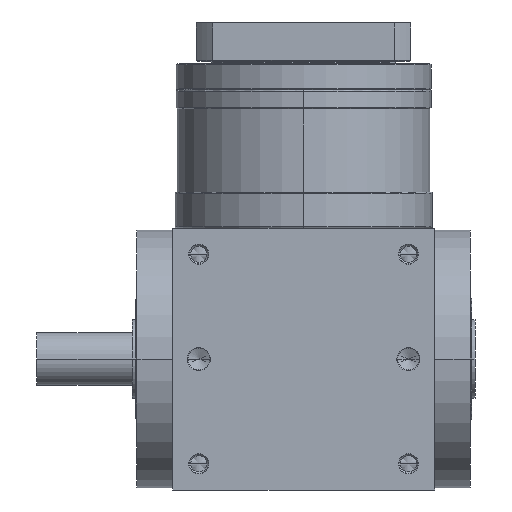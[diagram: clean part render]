
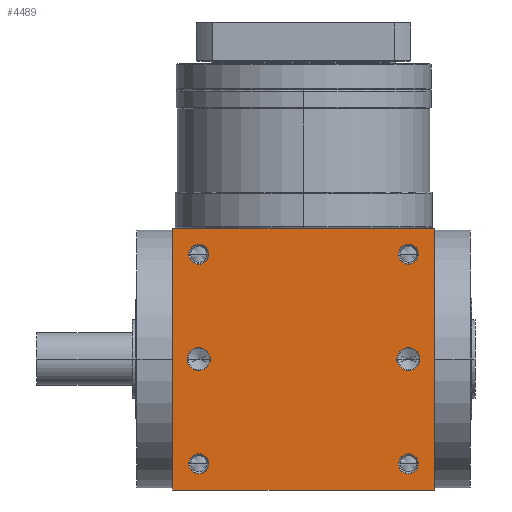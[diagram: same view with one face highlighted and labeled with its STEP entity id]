
A CAD part, front view. The second image highlights one B-rep face of the part: STEP entity #4489.
In plain terms, the highlighted planar face has unit normal (0, -1, 0).
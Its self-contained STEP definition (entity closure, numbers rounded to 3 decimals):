
#5=DIRECTION('',(1.,0.,0.));
#6=VECTOR('',#5,110.);
#7=CARTESIAN_POINT('',(-55.,-55.,-55.));
#8=LINE('',#7,#6);
#155=DIRECTION('',(0.,0.,1.));
#156=VECTOR('',#155,110.);
#157=CARTESIAN_POINT('',(55.,-55.,-55.));
#158=LINE('',#157,#156);
#209=DIRECTION('',(0.,0.,1.));
#210=VECTOR('',#209,110.);
#211=CARTESIAN_POINT('',(-55.,-55.,-55.));
#212=LINE('',#211,#210);
#213=CARTESIAN_POINT('',(44.,-55.,44.));
#214=DIRECTION('',(0.,1.,0.));
#215=DIRECTION('',(-1.,0.,0.));
#216=AXIS2_PLACEMENT_3D('',#213,#214,#215);
#218=CARTESIAN_POINT('',(44.,-55.,44.));
#219=DIRECTION('',(0.,1.,0.));
#220=DIRECTION('',(1.,0.,0.));
#221=AXIS2_PLACEMENT_3D('',#218,#219,#220);
#223=CARTESIAN_POINT('',(-44.,-55.,44.));
#224=DIRECTION('',(0.,1.,0.));
#225=DIRECTION('',(-1.,0.,0.));
#226=AXIS2_PLACEMENT_3D('',#223,#224,#225);
#228=CARTESIAN_POINT('',(-44.,-55.,44.));
#229=DIRECTION('',(0.,1.,0.));
#230=DIRECTION('',(1.,0.,0.));
#231=AXIS2_PLACEMENT_3D('',#228,#229,#230);
#233=CARTESIAN_POINT('',(44.,-55.,-44.));
#234=DIRECTION('',(0.,1.,0.));
#235=DIRECTION('',(-1.,0.,0.));
#236=AXIS2_PLACEMENT_3D('',#233,#234,#235);
#238=CARTESIAN_POINT('',(44.,-55.,-44.));
#239=DIRECTION('',(0.,1.,0.));
#240=DIRECTION('',(1.,0.,0.));
#241=AXIS2_PLACEMENT_3D('',#238,#239,#240);
#243=CARTESIAN_POINT('',(-44.,-55.,-44.));
#244=DIRECTION('',(0.,1.,0.));
#245=DIRECTION('',(-1.,0.,0.));
#246=AXIS2_PLACEMENT_3D('',#243,#244,#245);
#248=CARTESIAN_POINT('',(-44.,-55.,-44.));
#249=DIRECTION('',(0.,1.,0.));
#250=DIRECTION('',(1.,0.,0.));
#251=AXIS2_PLACEMENT_3D('',#248,#249,#250);
#253=CARTESIAN_POINT('',(-44.,-55.,0.));
#254=DIRECTION('',(0.,1.,0.));
#255=DIRECTION('',(1.,0.,0.));
#256=AXIS2_PLACEMENT_3D('',#253,#254,#255);
#258=CARTESIAN_POINT('',(-44.,-55.,0.));
#259=DIRECTION('',(0.,1.,0.));
#260=DIRECTION('',(-1.,0.,0.));
#261=AXIS2_PLACEMENT_3D('',#258,#259,#260);
#263=CARTESIAN_POINT('',(44.,-55.,0.));
#264=DIRECTION('',(0.,1.,0.));
#265=DIRECTION('',(1.,0.,0.));
#266=AXIS2_PLACEMENT_3D('',#263,#264,#265);
#268=CARTESIAN_POINT('',(44.,-55.,0.));
#269=DIRECTION('',(0.,1.,0.));
#270=DIRECTION('',(-1.,0.,0.));
#271=AXIS2_PLACEMENT_3D('',#268,#269,#270);
#285=DIRECTION('',(1.,0.,0.));
#286=VECTOR('',#285,110.);
#287=CARTESIAN_POINT('',(-55.,-55.,55.));
#288=LINE('',#287,#286);
#3610=CARTESIAN_POINT('',(-55.,-55.,-55.));
#3612=VERTEX_POINT('',#3610);
#3613=CARTESIAN_POINT('',(55.,-55.,-55.));
#3614=VERTEX_POINT('',#3613);
#3618=CARTESIAN_POINT('',(-55.,-55.,55.));
#3620=VERTEX_POINT('',#3618);
#3621=CARTESIAN_POINT('',(55.,-55.,55.));
#3622=VERTEX_POINT('',#3621);
#3793=CARTESIAN_POINT('',(39.8,-55.,44.));
#3794=CARTESIAN_POINT('',(48.2,-55.,44.));
#3795=VERTEX_POINT('',#3793);
#3796=VERTEX_POINT('',#3794);
#3801=CARTESIAN_POINT('',(-48.2,-55.,44.));
#3802=CARTESIAN_POINT('',(-39.8,-55.,44.));
#3803=VERTEX_POINT('',#3801);
#3804=VERTEX_POINT('',#3802);
#3809=CARTESIAN_POINT('',(39.8,-55.,-44.));
#3810=CARTESIAN_POINT('',(48.2,-55.,-44.));
#3811=VERTEX_POINT('',#3809);
#3812=VERTEX_POINT('',#3810);
#3817=CARTESIAN_POINT('',(-48.2,-55.,-44.));
#3818=CARTESIAN_POINT('',(-39.8,-55.,-44.));
#3819=VERTEX_POINT('',#3817);
#3820=VERTEX_POINT('',#3818);
#4159=CARTESIAN_POINT('',(-39.15,-55.,
0.));
#4160=CARTESIAN_POINT('',(-48.85,-55.,0.));
#4161=VERTEX_POINT('',#4159);
#4162=VERTEX_POINT('',#4160);
#4167=CARTESIAN_POINT('',(48.85,-55.,0.));
#4168=CARTESIAN_POINT('',(39.15,-55.,0.));
#4169=VERTEX_POINT('',#4167);
#4170=VERTEX_POINT('',#4168);
#4441=CARTESIAN_POINT('',(-55.,-55.,-55.));
#4442=DIRECTION('',(0.,-1.,0.));
#4443=DIRECTION('',(1.,0.,0.));
#4444=AXIS2_PLACEMENT_3D('',#4441,#4442,#4443);
#4445=PLANE('',#4444);
#4446=ORIENTED_EDGE('',*,*,#4281,.F.);
#4447=ORIENTED_EDGE('',*,*,#4324,.T.);
#4449=ORIENTED_EDGE('',*,*,#4448,.T.);
#4450=ORIENTED_EDGE('',*,*,#4403,.F.);
#4451=EDGE_LOOP('',(#4446,#4447,#4449,#4450));
#4452=FACE_OUTER_BOUND('',#4451,.F.);
#4454=ORIENTED_EDGE('',*,*,#4453,.F.);
#4456=ORIENTED_EDGE('',*,*,#4455,.F.);
#4457=EDGE_LOOP('',(#4454,#4456));
#4458=FACE_BOUND('',#4457,.F.);
#4460=ORIENTED_EDGE('',*,*,#4459,.F.);
#4462=ORIENTED_EDGE('',*,*,#4461,.F.);
#4463=EDGE_LOOP('',(#4460,#4462));
#4464=FACE_BOUND('',#4463,.F.);
#4466=ORIENTED_EDGE('',*,*,#4465,.F.);
#4468=ORIENTED_EDGE('',*,*,#4467,.F.);
#4469=EDGE_LOOP('',(#4466,#4468));
#4470=FACE_BOUND('',#4469,.F.);
#4472=ORIENTED_EDGE('',*,*,#4471,.F.);
#4474=ORIENTED_EDGE('',*,*,#4473,.F.);
#4475=EDGE_LOOP('',(#4472,#4474));
#4476=FACE_BOUND('',#4475,.F.);
#4478=ORIENTED_EDGE('',*,*,#4477,.F.);
#4480=ORIENTED_EDGE('',*,*,#4479,.F.);
#4481=EDGE_LOOP('',(#4478,#4480));
#4482=FACE_BOUND('',#4481,.F.);
#4484=ORIENTED_EDGE('',*,*,#4483,.F.);
#4486=ORIENTED_EDGE('',*,*,#4485,.F.);
#4487=EDGE_LOOP('',(#4484,#4486));
#4488=FACE_BOUND('',#4487,.F.);
#4489=ADVANCED_FACE('',(#4452,#4458,#4464,#4470,#4476,#4482,#4488),#4445,.T.);
#217=CIRCLE('',#216,4.2);
#222=CIRCLE('',#221,4.2);
#227=CIRCLE('',#226,4.2);
#232=CIRCLE('',#231,4.2);
#237=CIRCLE('',#236,4.2);
#242=CIRCLE('',#241,4.2);
#247=CIRCLE('',#246,4.2);
#252=CIRCLE('',#251,4.2);
#257=CIRCLE('',#256,4.85);
#262=CIRCLE('',#261,4.85);
#267=CIRCLE('',#266,4.85);
#272=CIRCLE('',#271,4.85);
#4281=EDGE_CURVE('',#3612,#3614,#8,.T.);
#4324=EDGE_CURVE('',#3612,#3620,#212,.T.);
#4403=EDGE_CURVE('',#3614,#3622,#158,.T.);
#4448=EDGE_CURVE('',#3620,#3622,#288,.T.);
#4453=EDGE_CURVE('',#3795,#3796,#217,.T.);
#4455=EDGE_CURVE('',#3796,#3795,#222,.T.);
#4459=EDGE_CURVE('',#3803,#3804,#227,.T.);
#4461=EDGE_CURVE('',#3804,#3803,#232,.T.);
#4465=EDGE_CURVE('',#3811,#3812,#237,.T.);
#4467=EDGE_CURVE('',#3812,#3811,#242,.T.);
#4471=EDGE_CURVE('',#3819,#3820,#247,.T.);
#4473=EDGE_CURVE('',#3820,#3819,#252,.T.);
#4477=EDGE_CURVE('',#4161,#4162,#257,.T.);
#4479=EDGE_CURVE('',#4162,#4161,#262,.T.);
#4483=EDGE_CURVE('',#4169,#4170,#267,.T.);
#4485=EDGE_CURVE('',#4170,#4169,#272,.T.);
